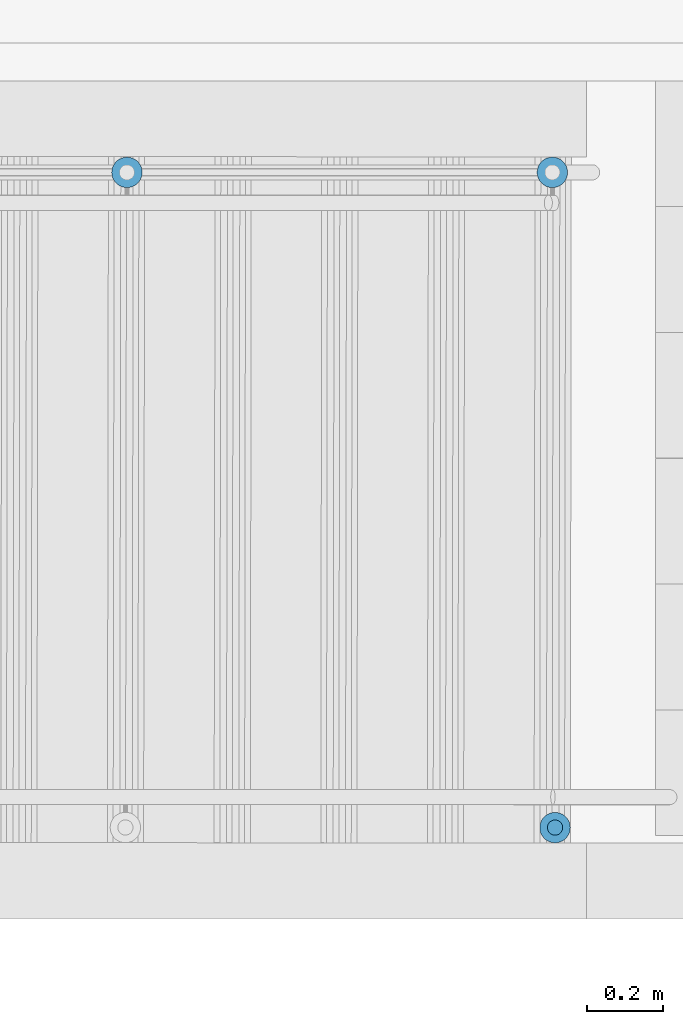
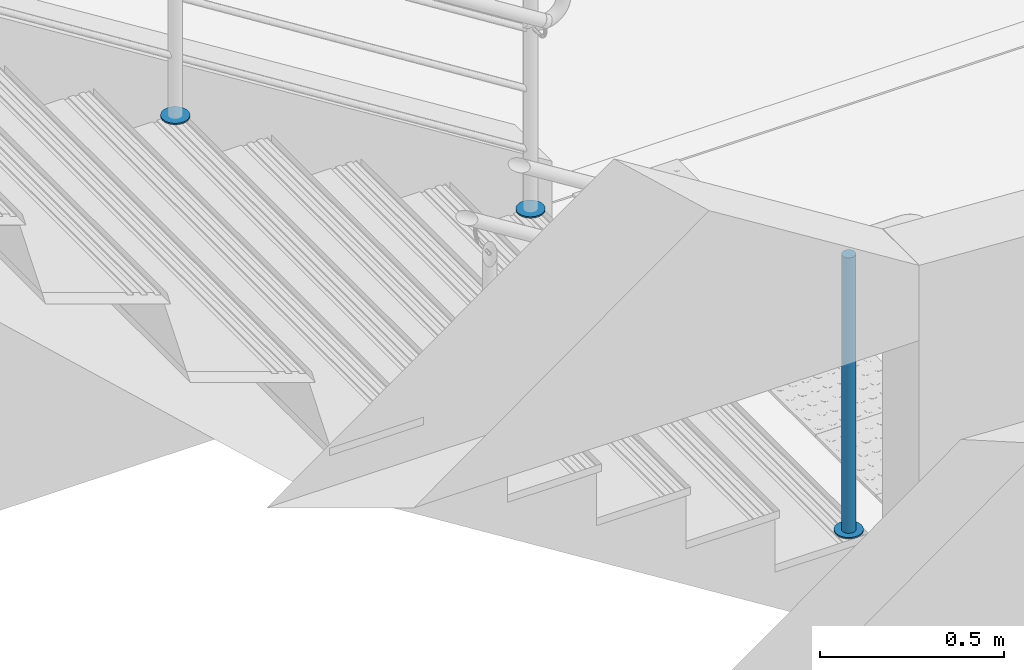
# One storey, part 133 of 237: 4 building element parts, 2 elements without a shape of their own.
"""IFC2X3 building model written with IfcOpenShell, lengths in millimetres."""

from ifc_helpers import new_model, entity, si_unit, converted_unit, derived_unit, money_unit, direction, frame, origin_with_axes, place, context, subcontext, project, spatial, faceted_brep, material, type_object, element, aggregate, save


model = new_model("IFC2X3")

# Units and contexts
model_context = context("Model", 3, precision=0.01, world=origin_with_axes(), true_north=direction((0.0, 1.0)))
body_context = subcontext(model_context, "Body", "Model", "MODEL_VIEW")
ifc_project = project(units=[si_unit("LENGTHUNIT", "METRE", prefix="MILLI"), si_unit("AREAUNIT", "SQUARE_METRE"), si_unit("VOLUMEUNIT", "CUBIC_METRE"), converted_unit("PLANEANGLEUNIT", "DEGREE", entity("IfcPlaneAngleMeasure", 0.0174532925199), si_unit("PLANEANGLEUNIT", "RADIAN"), dimensions=[0, 0, 0, 0, 0, 0, 0]), money_unit("USD"), converted_unit("TIMEUNIT", "Year", entity("IfcTimeMeasure", 31556926.0), si_unit("TIMEUNIT", "SECOND"), dimensions=[0, 0, 1, 0, 0, 0, 0]), si_unit("MASSUNIT", "GRAM", prefix="KILO"), si_unit("THERMODYNAMICTEMPERATUREUNIT", "DEGREE_CELSIUS"), si_unit("LUMINOUSINTENSITYUNIT", "LUMEN"), si_unit("ENERGYUNIT", "JOULE", prefix="MEGA"), derived_unit("THERMALCONDUCTANCEUNIT", [(si_unit("POWERUNIT", "WATT"), 1), (si_unit("LENGTHUNIT", "METRE"), -1), (si_unit("THERMODYNAMICTEMPERATUREUNIT", "KELVIN"), -1)]), derived_unit("SPECIFICHEATCAPACITYUNIT", [(si_unit("ENERGYUNIT", "JOULE"), 1), (si_unit("MASSUNIT", "GRAM", prefix="KILO"), -1), (si_unit("THERMODYNAMICTEMPERATUREUNIT", "KELVIN"), -1)]), derived_unit("MASSDENSITYUNIT", [(si_unit("MASSUNIT", "GRAM", prefix="KILO"), 1), (si_unit("VOLUMEUNIT", "CUBIC_METRE"), -1)])], contexts=[model_context])

# Site, building, storey
site_placement = place(None, origin_with_axes())
site = spatial("IfcSite", under=ifc_project, at=site_placement, Name="Local", CompositionType="ELEMENT")
building_placement = place(site_placement, origin_with_axes())
building = spatial("IfcBuilding", under=site, at=building_placement, Name="Construção", CompositionType="ELEMENT")
storey_placement = place(building_placement, origin_with_axes())
storey = spatial("IfcBuildingStorey", under=building, at=storey_placement, Name="Pavimento Térreo", CompositionType="ELEMENT", Elevation=0.0)

# Railing, building element parts
railing_type = type_object("IfcRailingType", Name="Tipo de Guarda-Corpo", PredefinedType="NOTDEFINED")
railing_1_placement = place(storey_placement, frame((88000.0, 12000.0, -7124.22292764), z_axis=(0.0, 0.0, 1.0), x_axis=(1.0, 0.0, 0.0)))
railing_1 = element("IfcRailing", 1, at=railing_1_placement, inside=storey, type_object=railing_type, Name="Guarda-Corpo - 003", PredefinedType="NOTDEFINED")
ifc_material_1 = material(Name="Aço - Inoxidável")
building_element_part_1_placement = place(railing_1_placement, origin_with_axes())
building_element_part_1 = element("IfcBuildingElementPart", 2, at=building_element_part_1_placement, material=ifc_material_1, Name="Aço - Inoxidável", context=body_context, shape_type="Brep", body=[
    faceted_brep([(15577.786075, 1014.82627588, 29.8811207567), (15581.2589507, 1014.52142867, 29.8811207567), (15581.2589507, 1014.52142867, 944.881120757), (15577.786075, 1014.82627588, 944.881120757), (15584.7320018, 1014.82427131, 29.8811207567), (15574.4188962, 1015.72955031, 29.8811207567), (15571.2597244, 1017.20380644, 29.8811207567), (15568.4045494, 1019.20424973, 29.8811207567), (15565.9401243, 1021.67009772, 29.8811207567), (15563.9413293, 1024.52642688, 29.8811207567), (15562.4688969, 1027.68644908, 29.8811207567), (15561.5675661, 1031.05414866, 29.8811207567), (15561.2647235, 1034.52719976, 29.8811207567), (15561.5695707, 1038.00007548, 29.8811207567), (15562.4728451, 1041.36725425, 29.8811207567), (15563.9471012, 1044.52642605, 29.8811207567), (15565.9475445, 1047.38160104, 29.8811207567), (15568.4133925, 1049.84602618, 29.8811207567), (15571.2697217, 1051.84482115, 29.8811207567), (15574.4297439, 1053.31725358, 29.8811207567), (15577.7974435, 1054.21858436, 29.8811207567), (15581.2704946, 1054.521427, 29.8811207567), (15584.7433703, 1054.21657979, 29.8811207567), (15588.1105491, 1053.31330535, 29.8811207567), (15591.2697209, 1051.83904923, 29.8811207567), (15594.1248958, 1049.83860594, 29.8811207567), (15596.589321, 1047.37275794, 29.8811207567), (15598.588116, 1044.51642879, 29.8811207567), (15600.0605484, 1041.35640658, 29.8811207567), (15600.9618792, 1037.98870701, 29.8811207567), (15601.2647218, 1034.51565591, 29.8811207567), (15600.9598746, 1031.04278019, 29.8811207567), (15600.0566002, 1027.67560142, 29.8811207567), (15598.582344, 1024.51642962, 29.8811207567), (15596.5819007, 1021.66125463, 29.8811207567), (15594.1160527, 1019.19682949, 29.8811207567), (15591.2597236, 1017.19803452, 29.8811207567), (15588.0997014, 1015.72560209, 29.8811207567), (15584.7320018, 1014.82427131, 944.881120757), (15561.5695707, 1038.00007548, 944.881120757), (15561.2647235, 1034.52719976, 944.881120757), (15561.5675661, 1031.05414866, 944.881120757), (15562.4688969, 1027.68644908, 944.881120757), (15563.9413293, 1024.52642688, 944.881120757), (15565.9401243, 1021.67009772, 944.881120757), (15568.4045494, 1019.20424973, 944.881120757), (15571.2597244, 1017.20380644, 944.881120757), (15574.4188962, 1015.72955031, 944.881120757), (15588.0997014, 1015.72560209, 944.881120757), (15591.2597236, 1017.19803452, 944.881120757), (15594.1160527, 1019.19682949, 944.881120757), (15596.5819007, 1021.66125463, 944.881120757), (15598.582344, 1024.51642962, 944.881120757), (15600.0566002, 1027.67560142, 944.881120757), (15600.9598746, 1031.04278019, 944.881120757), (15601.2647218, 1034.51565591, 944.881120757), (15600.9618792, 1037.98870701, 944.881120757), (15600.0605484, 1041.35640658, 944.881120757), (15598.588116, 1044.51642879, 944.881120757), (15596.589321, 1047.37275794, 944.881120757), (15594.1248958, 1049.83860594, 944.881120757), (15591.2697209, 1051.83904923, 944.881120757), (15588.1105491, 1053.31330535, 944.881120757), (15584.7433703, 1054.21657979, 944.881120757), (15581.2704946, 1054.521427, 944.881120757), (15577.7974435, 1054.21858436, 944.881120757), (15574.4297439, 1053.31725358, 944.881120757), (15571.2697217, 1051.84482115, 944.881120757), (15568.4133925, 1049.84602618, 944.881120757), (15565.9475445, 1047.38160104, 944.881120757), (15563.9471012, 1044.52642605, 944.881120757), (15562.4728451, 1041.36725425, 944.881120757)], [[[0, 1, 2, 3]], [[4, 1, 0, 5, 6, 7, 8, 9, 10, 11, 12, 13, 14, 15, 16, 17, 18, 19, 20, 21, 22, 23, 24, 25, 26, 27, 28, 29, 30, 31, 32, 33, 34, 35, 36, 37]], [[1, 4, 38, 2]], [[39, 40, 41, 42, 43, 44, 45, 46, 47, 3, 2, 38, 48, 49, 50, 51, 52, 53, 54, 55, 56, 57, 58, 59, 60, 61, 62, 63, 64, 65, 66, 67, 68, 69, 70, 71]], [[5, 0, 3, 47]], [[6, 5, 47, 46]], [[7, 6, 46, 45]], [[8, 7, 45, 44]], [[9, 8, 44, 43]], [[10, 9, 43, 42]], [[11, 10, 42, 41]], [[12, 11, 41, 40]], [[13, 12, 40, 39]], [[14, 13, 39, 71]], [[15, 14, 71, 70]], [[16, 15, 70, 69]], [[17, 16, 69, 68]], [[18, 17, 68, 67]], [[19, 18, 67, 66]], [[20, 19, 66, 65]], [[21, 20, 65, 64]], [[22, 21, 64, 63]], [[23, 22, 63, 62]], [[24, 23, 62, 61]], [[25, 24, 61, 60]], [[26, 25, 60, 59]], [[27, 26, 59, 58]], [[28, 27, 58, 57]], [[29, 28, 57, 56]], [[30, 29, 56, 55]], [[31, 30, 55, 54]], [[32, 31, 54, 53]], [[33, 32, 53, 52]], [[34, 33, 52, 51]], [[35, 34, 51, 50]], [[36, 35, 50, 49]], [[37, 36, 49, 48]], [[4, 37, 48, 38]]]),
])
ifc_material_2 = material(Name="Alumínio")
building_element_part_2_placement = place(railing_1_placement, origin_with_axes())
building_element_part_2 = element("IfcBuildingElementPart", 3, at=building_element_part_2_placement, material=ifc_material_2, Name="Alumínio", context=body_context, shape_type="Brep", body=[
    faceted_brep([(15621.264721, 1034.50988399, 24.8811207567), (15620.6590357, 1041.45598618, 24.8811207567), (15620.6590357, 1041.45598618, 29.8811207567), (15621.264721, 1034.50988399, 29.8811207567), (15620.6550265, 1027.56413255, 24.8811207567), (15618.8484777, 1020.829775, 24.8811207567), (15615.8999654, 1014.5114314, 24.8811207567), (15611.8990788, 1008.80108142, 24.8811207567), (15606.9673829, 1003.87223114, 24.8811207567), (15601.2547245, 999.874641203, 24.8811207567), (15594.9346801, 996.92977634, 24.8811207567), (15588.199281, 995.127114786, 24.8811207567), (15581.2531788, 994.521429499, 24.8811207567), (15574.3074274, 995.131123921, 24.8811207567), (15567.5730698, 996.937672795, 24.8811207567), (15561.2547262, 999.886185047, 24.8811207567), (15555.5443762, 1003.88707162, 24.8811207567), (15550.6155259, 1008.81876761, 24.8811207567), (15546.617936, 1014.53142593, 24.8811207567), (15543.6730711, 1020.85147034, 24.8811207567), (15541.8704096, 1027.58686948, 24.8811207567), (15541.2647243, 1034.53297168, 24.8811207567), (15541.8744187, 1041.47872312, 24.8811207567), (15543.6809676, 1048.21308066, 24.8811207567), (15546.6294799, 1054.53142426, 24.8811207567), (15550.6303664, 1060.24177425, 24.8811207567), (15555.5620624, 1065.17062452, 24.8811207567), (15561.2747207, 1069.16821446, 24.8811207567), (15567.5947651, 1072.11307933, 24.8811207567), (15574.3301643, 1073.91574088, 24.8811207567), (15581.2762665, 1074.52142617, 24.8811207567), (15588.2220179, 1073.91173175, 24.8811207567), (15594.9563755, 1072.10518287, 24.8811207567), (15601.2747191, 1069.15667062, 24.8811207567), (15606.9850691, 1065.15578404, 24.8811207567), (15611.9139193, 1060.22408805, 24.8811207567), (15615.9115093, 1054.51142974, 24.8811207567), (15618.8563741, 1048.19138533, 24.8811207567), (15618.8563741, 1048.19138533, 29.8811207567), (15615.9115093, 1054.51142974, 29.8811207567), (15611.9139193, 1060.22408805, 29.8811207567), (15606.9850691, 1065.15578404, 29.8811207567), (15601.2747191, 1069.15667062, 29.8811207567), (15594.9563755, 1072.10518287, 29.8811207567), (15588.2220179, 1073.91173175, 29.8811207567), (15581.2762665, 1074.52142617, 29.8811207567), (15574.3301643, 1073.91574088, 29.8811207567), (15567.5947651, 1072.11307933, 29.8811207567), (15561.2747207, 1069.16821446, 29.8811207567), (15555.5620624, 1065.17062452, 29.8811207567), (15550.6303664, 1060.24177425, 29.8811207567), (15546.6294799, 1054.53142426, 29.8811207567), (15543.6809676, 1048.21308066, 29.8811207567), (15541.8744187, 1041.47872312, 29.8811207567), (15541.2647243, 1034.53297168, 29.8811207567), (15541.8704096, 1027.58686948, 29.8811207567), (15543.6730711, 1020.85147034, 29.8811207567), (15546.617936, 1014.53142593, 29.8811207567), (15550.6155259, 1008.81876761, 29.8811207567), (15555.5443762, 1003.88707162, 29.8811207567), (15561.2547262, 999.886185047, 29.8811207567), (15567.5730698, 996.937672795, 29.8811207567), (15574.3074274, 995.131123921, 29.8811207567), (15581.2531788, 994.521429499, 29.8811207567), (15588.199281, 995.127114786, 29.8811207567), (15594.9346801, 996.92977634, 29.8811207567), (15601.2547245, 999.874641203, 29.8811207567), (15606.9673829, 1003.87223114, 29.8811207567), (15611.8990788, 1008.80108142, 29.8811207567), (15615.8999654, 1014.5114314, 29.8811207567), (15618.8484777, 1020.829775, 29.8811207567), (15620.6550265, 1027.56413255, 29.8811207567)], [[[0, 1, 2, 3]], [[0, 4, 5, 6, 7, 8, 9, 10, 11, 12, 13, 14, 15, 16, 17, 18, 19, 20, 21, 22, 23, 24, 25, 26, 27, 28, 29, 30, 31, 32, 33, 34, 35, 36, 37, 1]], [[1, 37, 38, 2]], [[3, 2, 38, 39, 40, 41, 42, 43, 44, 45, 46, 47, 48, 49, 50, 51, 52, 53, 54, 55, 56, 57, 58, 59, 60, 61, 62, 63, 64, 65, 66, 67, 68, 69, 70, 71]], [[4, 0, 3, 71]], [[5, 4, 71, 70]], [[6, 5, 70, 69]], [[7, 6, 69, 68]], [[8, 7, 68, 67]], [[9, 8, 67, 66]], [[10, 9, 66, 65]], [[11, 10, 65, 64]], [[12, 11, 64, 63]], [[13, 12, 63, 62]], [[14, 13, 62, 61]], [[15, 14, 61, 60]], [[16, 15, 60, 59]], [[17, 16, 59, 58]], [[18, 17, 58, 57]], [[19, 18, 57, 56]], [[20, 19, 56, 55]], [[21, 20, 55, 54]], [[22, 21, 54, 53]], [[23, 22, 53, 52]], [[24, 23, 52, 51]], [[25, 24, 51, 50]], [[26, 25, 50, 49]], [[27, 26, 49, 48]], [[28, 27, 48, 47]], [[29, 28, 47, 46]], [[30, 29, 46, 45]], [[31, 30, 45, 44]], [[32, 31, 44, 43]], [[33, 32, 43, 42]], [[34, 33, 42, 41]], [[35, 34, 41, 40]], [[36, 35, 40, 39]], [[37, 36, 39, 38]]]),
])
aggregate(railing_1, [building_element_part_1, building_element_part_2])

railing_2_placement = place(storey_placement, frame((104000.0, 14000.0, -7099.22292764), z_axis=(0.0, 0.0, 1.0), x_axis=(1.0, 0.0, 0.0)))
railing_2 = element("IfcRailing", 4, at=railing_2_placement, inside=storey, type_object=railing_type, Name="Guarda-Corpo - 001", PredefinedType="NOTDEFINED")
building_element_part_3_placement = place(railing_2_placement, origin_with_axes())
building_element_part_3 = element("IfcBuildingElementPart", 5, at=building_element_part_3_placement, material=ifc_material_2, Name="Alumínio", context=body_context, shape_type="Brep", body=[
    faceted_brep([(-465.787829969, 754.521407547, 25.1289147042), (-465.180090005, 747.575484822, 25.1289147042), (-465.180090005, 747.575484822, 30.1289147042), (-465.787829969, 754.521407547, 30.1289147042), (-465.180190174, 761.467339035, 25.1289147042), (-463.375633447, 768.202230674, 25.1289147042), (-460.428990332, 774.521446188, 25.1289147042), (-456.429793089, 780.232979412, 25.1289147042), (-451.499555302, 785.163288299, 25.1289147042), (-445.788079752, 789.162567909, 25.1289147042), (-439.468906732, 792.109302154, 25.1289147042), (-432.734041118, 793.913956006, 25.1289147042), (-425.788118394, 794.52169597, 25.1289147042), (-418.842186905, 793.914056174, 25.1289147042), (-412.107295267, 792.109499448, 25.1289147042), (-405.788079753, 789.162856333, 25.1289147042), (-400.076546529, 785.16365909, 25.1289147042), (-395.146237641, 780.233421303, 25.1289147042), (-391.146958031, 774.521945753, 25.1289147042), (-388.200223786, 768.202772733, 25.1289147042), (-386.395569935, 761.467907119, 25.1289147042), (-385.787829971, 754.521984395, 25.1289147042), (-386.395469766, 747.576052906, 25.1289147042), (-388.200026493, 740.841161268, 25.1289147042), (-391.146669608, 734.521945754, 25.1289147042), (-395.145866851, 728.810412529, 25.1289147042), (-400.076104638, 723.880103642, 25.1289147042), (-405.787580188, 719.880824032, 25.1289147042), (-412.106753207, 716.934089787, 25.1289147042), (-418.841618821, 715.129435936, 25.1289147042), (-425.787541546, 714.521695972, 25.1289147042), (-432.733473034, 715.129335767, 25.1289147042), (-439.468364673, 716.933892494, 25.1289147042), (-445.787580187, 719.880535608, 25.1289147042), (-451.499113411, 723.879732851, 25.1289147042), (-456.429422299, 728.809970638, 25.1289147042), (-460.428701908, 734.521446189, 25.1289147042), (-463.375436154, 740.840619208, 25.1289147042), (-463.375436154, 740.840619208, 30.1289147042), (-460.428701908, 734.521446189, 30.1289147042), (-456.429422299, 728.809970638, 30.1289147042), (-451.499113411, 723.879732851, 30.1289147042), (-445.787580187, 719.880535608, 30.1289147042), (-439.468364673, 716.933892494, 30.1289147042), (-432.733473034, 715.129335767, 30.1289147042), (-425.787541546, 714.521695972, 30.1289147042), (-418.841618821, 715.129435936, 30.1289147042), (-412.106753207, 716.934089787, 30.1289147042), (-405.787580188, 719.880824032, 30.1289147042), (-400.076104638, 723.880103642, 30.1289147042), (-395.145866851, 728.810412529, 30.1289147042), (-391.146669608, 734.521945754, 30.1289147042), (-388.200026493, 740.841161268, 30.1289147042), (-386.395469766, 747.576052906, 30.1289147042), (-385.787829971, 754.521984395, 30.1289147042), (-386.395569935, 761.467907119, 30.1289147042), (-388.200223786, 768.202772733, 30.1289147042), (-391.146958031, 774.521945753, 30.1289147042), (-395.146237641, 780.233421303, 30.1289147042), (-400.076546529, 785.16365909, 30.1289147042), (-405.788079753, 789.162856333, 30.1289147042), (-412.107295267, 792.109499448, 30.1289147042), (-418.842186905, 793.914056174, 30.1289147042), (-425.788118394, 794.52169597, 30.1289147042), (-432.734041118, 793.913956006, 30.1289147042), (-439.468906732, 792.109302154, 30.1289147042), (-445.788079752, 789.162567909, 30.1289147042), (-451.499555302, 785.163288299, 30.1289147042), (-456.429793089, 780.232979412, 30.1289147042), (-460.428990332, 774.521446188, 30.1289147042), (-463.375633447, 768.202230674, 30.1289147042), (-465.180190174, 761.467339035, 30.1289147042)], [[[0, 1, 2, 3]], [[0, 4, 5, 6, 7, 8, 9, 10, 11, 12, 13, 14, 15, 16, 17, 18, 19, 20, 21, 22, 23, 24, 25, 26, 27, 28, 29, 30, 31, 32, 33, 34, 35, 36, 37, 1]], [[1, 37, 38, 2]], [[3, 2, 38, 39, 40, 41, 42, 43, 44, 45, 46, 47, 48, 49, 50, 51, 52, 53, 54, 55, 56, 57, 58, 59, 60, 61, 62, 63, 64, 65, 66, 67, 68, 69, 70, 71]], [[4, 0, 3, 71]], [[5, 4, 71, 70]], [[6, 5, 70, 69]], [[7, 6, 69, 68]], [[8, 7, 68, 67]], [[9, 8, 67, 66]], [[10, 9, 66, 65]], [[11, 10, 65, 64]], [[12, 11, 64, 63]], [[13, 12, 63, 62]], [[14, 13, 62, 61]], [[15, 14, 61, 60]], [[16, 15, 60, 59]], [[17, 16, 59, 58]], [[18, 17, 58, 57]], [[19, 18, 57, 56]], [[20, 19, 56, 55]], [[21, 20, 55, 54]], [[22, 21, 54, 53]], [[23, 22, 53, 52]], [[24, 23, 52, 51]], [[25, 24, 51, 50]], [[26, 25, 50, 49]], [[27, 26, 49, 48]], [[28, 27, 48, 47]], [[29, 28, 47, 46]], [[30, 29, 46, 45]], [[31, 30, 45, 44]], [[32, 31, 44, 43]], [[33, 32, 43, 42]], [[34, 33, 42, 41]], [[35, 34, 41, 40]], [[36, 35, 40, 39]], [[37, 36, 39, 38]]]),
])
building_element_part_4_placement = place(railing_2_placement, origin_with_axes())
building_element_part_4 = element("IfcBuildingElementPart", 6, at=building_element_part_4_placement, material=ifc_material_2, Name="Alumínio", context=body_context, shape_type="Brep", body=[
    faceted_brep([(-1582.49090979, 754.513355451, 726.667325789), (-1581.88316982, 747.567432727, 726.667325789), (-1581.88316982, 747.567432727, 731.667325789), (-1582.49090979, 754.513355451, 731.667325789), (-1581.88326999, 761.45928694, 726.667325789), (-1580.07871327, 768.194178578, 726.667325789), (-1577.13207015, 774.513394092, 726.667325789), (-1573.13287291, 780.224927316, 726.667325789), (-1568.20263512, 785.155236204, 726.667325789), (-1562.49115957, 789.154515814, 726.667325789), (-1556.17198655, 792.101250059, 726.667325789), (-1549.43712094, 793.90590391, 726.667325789), (-1542.49119821, 794.513643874, 726.667325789), (-1535.54526673, 793.906004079, 726.667325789), (-1528.81037509, 792.101447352, 726.667325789), (-1522.49115957, 789.154804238, 726.667325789), (-1516.77962635, 785.155606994, 726.667325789), (-1511.84931746, 780.225369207, 726.667325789), (-1507.85003785, 774.513893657, 726.667325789), (-1504.90330361, 768.194720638, 726.667325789), (-1503.09864975, 761.459855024, 726.667325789), (-1502.49090979, 754.513932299, 726.667325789), (-1503.09854959, 747.568000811, 726.667325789), (-1504.90310631, 740.833109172, 726.667325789), (-1507.84974943, 734.513893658, 726.667325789), (-1511.84894667, 728.802360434, 726.667325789), (-1516.77918446, 723.872051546, 726.667325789), (-1522.49066001, 719.872771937, 726.667325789), (-1528.80983303, 716.926037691, 726.667325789), (-1535.54469864, 715.12138384, 726.667325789), (-1542.49062137, 714.513643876, 726.667325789), (-1549.43655285, 715.121283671, 726.667325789), (-1556.17144449, 716.925840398, 726.667325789), (-1562.49066001, 719.872483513, 726.667325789), (-1568.20219323, 723.871680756, 726.667325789), (-1573.13250212, 728.801918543, 726.667325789), (-1577.13178173, 734.513394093, 726.667325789), (-1580.07851597, 740.832567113, 726.667325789), (-1580.07851597, 740.832567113, 731.667325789), (-1577.13178173, 734.513394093, 731.667325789), (-1573.13250212, 728.801918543, 731.667325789), (-1568.20219323, 723.871680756, 731.667325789), (-1562.49066001, 719.872483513, 731.667325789), (-1556.17144449, 716.925840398, 731.667325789), (-1549.43655285, 715.121283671, 731.667325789), (-1542.49062137, 714.513643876, 731.667325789), (-1535.54469864, 715.12138384, 731.667325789), (-1528.80983303, 716.926037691, 731.667325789), (-1522.49066001, 719.872771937, 731.667325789), (-1516.77918446, 723.872051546, 731.667325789), (-1511.84894667, 728.802360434, 731.667325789), (-1507.84974943, 734.513893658, 731.667325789), (-1504.90310631, 740.833109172, 731.667325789), (-1503.09854959, 747.568000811, 731.667325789), (-1502.49090979, 754.513932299, 731.667325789), (-1503.09864975, 761.459855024, 731.667325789), (-1504.90330361, 768.194720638, 731.667325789), (-1507.85003785, 774.513893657, 731.667325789), (-1511.84931746, 780.225369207, 731.667325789), (-1516.77962635, 785.155606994, 731.667325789), (-1522.49115957, 789.154804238, 731.667325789), (-1528.81037509, 792.101447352, 731.667325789), (-1535.54526673, 793.906004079, 731.667325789), (-1542.49119821, 794.513643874, 731.667325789), (-1549.43712094, 793.90590391, 731.667325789), (-1556.17198655, 792.101250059, 731.667325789), (-1562.49115957, 789.154515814, 731.667325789), (-1568.20263512, 785.155236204, 731.667325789), (-1573.13287291, 780.224927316, 731.667325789), (-1577.13207015, 774.513394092, 731.667325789), (-1580.07871327, 768.194178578, 731.667325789), (-1581.88326999, 761.45928694, 731.667325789)], [[[0, 1, 2, 3]], [[0, 4, 5, 6, 7, 8, 9, 10, 11, 12, 13, 14, 15, 16, 17, 18, 19, 20, 21, 22, 23, 24, 25, 26, 27, 28, 29, 30, 31, 32, 33, 34, 35, 36, 37, 1]], [[1, 37, 38, 2]], [[3, 2, 38, 39, 40, 41, 42, 43, 44, 45, 46, 47, 48, 49, 50, 51, 52, 53, 54, 55, 56, 57, 58, 59, 60, 61, 62, 63, 64, 65, 66, 67, 68, 69, 70, 71]], [[4, 0, 3, 71]], [[5, 4, 71, 70]], [[6, 5, 70, 69]], [[7, 6, 69, 68]], [[8, 7, 68, 67]], [[9, 8, 67, 66]], [[10, 9, 66, 65]], [[11, 10, 65, 64]], [[12, 11, 64, 63]], [[13, 12, 63, 62]], [[14, 13, 62, 61]], [[15, 14, 61, 60]], [[16, 15, 60, 59]], [[17, 16, 59, 58]], [[18, 17, 58, 57]], [[19, 18, 57, 56]], [[20, 19, 56, 55]], [[21, 20, 55, 54]], [[22, 21, 54, 53]], [[23, 22, 53, 52]], [[24, 23, 52, 51]], [[25, 24, 51, 50]], [[26, 25, 50, 49]], [[27, 26, 49, 48]], [[28, 27, 48, 47]], [[29, 28, 47, 46]], [[30, 29, 46, 45]], [[31, 30, 45, 44]], [[32, 31, 44, 43]], [[33, 32, 43, 42]], [[34, 33, 42, 41]], [[35, 34, 41, 40]], [[36, 35, 40, 39]], [[37, 36, 39, 38]]]),
])
aggregate(railing_2, [building_element_part_3, building_element_part_4])

save(model, "model.ifc")
